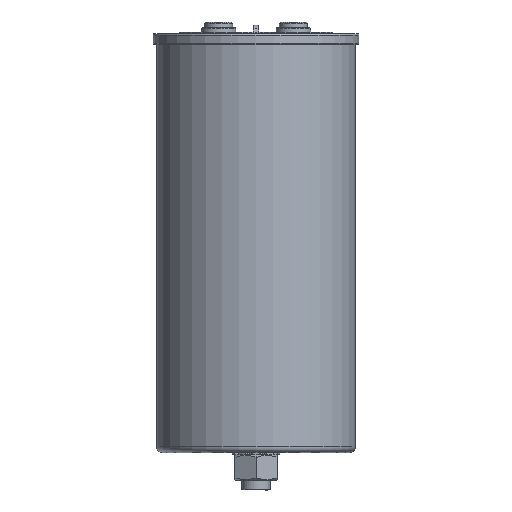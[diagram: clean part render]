
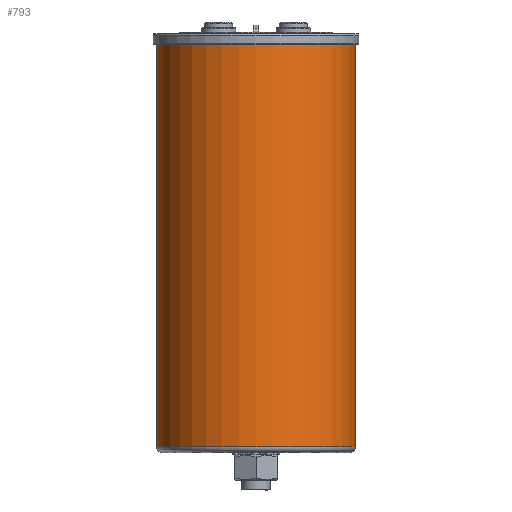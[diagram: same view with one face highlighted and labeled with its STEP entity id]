
A CAD part, left-side view. The second image highlights one B-rep face of the part: STEP entity #793.
In plain terms, the highlighted cylindrical face has radius 42.5 mm (diameter 85 mm), a partial arc.
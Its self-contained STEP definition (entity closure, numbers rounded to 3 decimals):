
#87 = CARTESIAN_POINT ( 'NONE',  ( 0., 0., -175. ) ) ;
#793 = ADVANCED_FACE ( 'NONE', ( #6208 ), #3109, .T. ) ;
#881 = CARTESIAN_POINT ( 'NONE',  ( 0., -42.5, 0. ) ) ;
#935 = CARTESIAN_POINT ( 'NONE',  ( 0., 42.5, 0. ) ) ;
#1024 = EDGE_CURVE ( 'NONE', #3153, #4453, #10203, .T. ) ;
#1507 = DIRECTION ( 'NONE',  ( 0., 0., 1. ) ) ;
#1547 = ORIENTED_EDGE ( 'NONE', *, *, #11334, .F. ) ;
#2269 = AXIS2_PLACEMENT_3D ( 'NONE', #4223, #5500, #10228 ) ;
#2737 = CARTESIAN_POINT ( 'NONE',  ( 0., 42.5, -172.5 ) ) ;
#3109 = CYLINDRICAL_SURFACE ( 'NONE', #3590, 42.5 ) ;
#3117 = CIRCLE ( 'NONE', #2269, 42.5 ) ;
#3153 = VERTEX_POINT ( 'NONE', #935 ) ;
#3590 = AXIS2_PLACEMENT_3D ( 'NONE', #87, #14042, #7091 ) ;
#3789 = DIRECTION ( 'NONE',  ( 0., 1., 0. ) ) ;
#3918 = CARTESIAN_POINT ( 'NONE',  ( 0., -42.5, -175. ) ) ;
#4223 = CARTESIAN_POINT ( 'NONE',  ( 0., 0., -172.5 ) ) ;
#4453 = VERTEX_POINT ( 'NONE', #881 ) ;
#4750 = CARTESIAN_POINT ( 'NONE',  ( 0., -42.5, -172.5 ) ) ;
#5500 = DIRECTION ( 'NONE',  ( 0., 0., 1. ) ) ;
#6208 = FACE_OUTER_BOUND ( 'NONE', #10296, .T. ) ;
#6523 = LINE ( 'NONE', #10124, #12340 ) ;
#7091 = DIRECTION ( 'NONE',  ( 0., -1., 0. ) ) ;
#7313 = VECTOR ( 'NONE', #8586, 1000. ) ;
#8350 = CARTESIAN_POINT ( 'NONE',  ( 0., 0., 0. ) ) ;
#8586 = DIRECTION ( 'NONE',  ( 0., 0., -1. ) ) ;
#9520 = VERTEX_POINT ( 'NONE', #2737 ) ;
#9678 = LINE ( 'NONE', #3918, #7313 ) ;
#10124 = CARTESIAN_POINT ( 'NONE',  ( 0., 42.5, -175. ) ) ;
#10202 = ORIENTED_EDGE ( 'NONE', *, *, #11122, .T. ) ;
#10203 = CIRCLE ( 'NONE', #12941, 42.5 ) ;
#10228 = DIRECTION ( 'NONE',  ( 0., -1., 0. ) ) ;
#10296 = EDGE_LOOP ( 'NONE', ( #13596, #12082, #10202, #1547 ) ) ;
#11122 = EDGE_CURVE ( 'NONE', #9520, #13271, #3117, .T. ) ;
#11249 = DIRECTION ( 'NONE',  ( 0., 0., -1. ) ) ;
#11334 = EDGE_CURVE ( 'NONE', #4453, #13271, #9678, .T. ) ;
#12082 = ORIENTED_EDGE ( 'NONE', *, *, #13446, .T. ) ;
#12340 = VECTOR ( 'NONE', #11249, 1000. ) ;
#12941 = AXIS2_PLACEMENT_3D ( 'NONE', #8350, #1507, #3789 ) ;
#13271 = VERTEX_POINT ( 'NONE', #4750 ) ;
#13446 = EDGE_CURVE ( 'NONE', #3153, #9520, #6523, .T. ) ;
#13596 = ORIENTED_EDGE ( 'NONE', *, *, #1024, .F. ) ;
#14042 = DIRECTION ( 'NONE',  ( 0., 0., -1. ) ) ;
